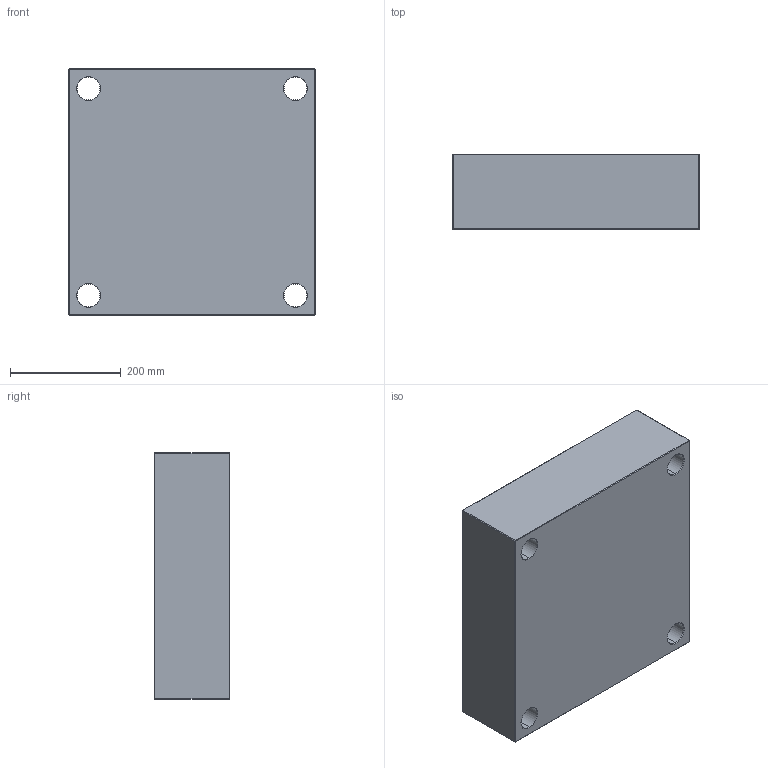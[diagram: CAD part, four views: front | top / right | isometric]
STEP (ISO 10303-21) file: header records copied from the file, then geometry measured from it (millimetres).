
FILE_DESCRIPTION (( 'STEP AP214' ), '1' );
FILE_NAME ('PCX-446x446x136.STEP', '2020-05-04T10:08:40', ( 'August' ), ( '' ), 'SwSTEP 2.0', 'SolidWorks 2018', '' );
FILE_SCHEMA (( 'AUTOMOTIVE_DESIGN' ));
Length unit declared in the file: millimetre
Products named in the file (1): PCX-446x446x136
Bounding box: 446 x 136 x 446 mm (x, y, z)
Volume: 26289135.9 mm3; surface area: 702707.3 mm2
Topology: 1 solids, 1 shells, 82 faces, 168 edges, 96 vertices
Faces by surface type: plane 34, cone 24, cylinder 24
Entity records: 2170 total; most frequent: DIRECTION 406, CARTESIAN_POINT 347, ORIENTED_EDGE 336, EDGE_CURVE 168, AXIS2_PLACEMENT_3D 155, EDGE_LOOP 98, LINE 96, VERTEX_POINT 96
